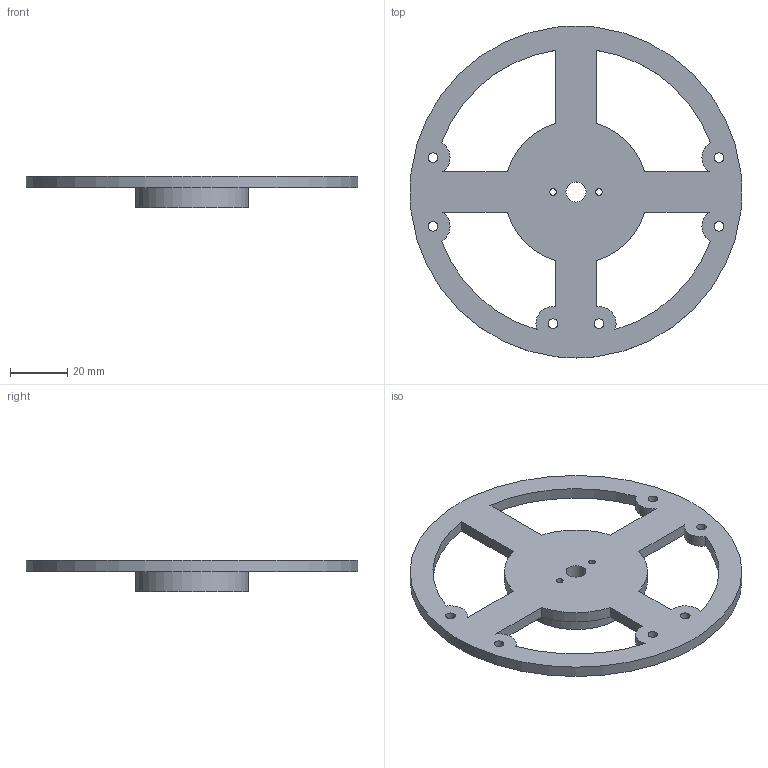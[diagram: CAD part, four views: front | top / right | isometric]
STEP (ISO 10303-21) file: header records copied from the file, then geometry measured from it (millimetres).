
FILE_DESCRIPTION(('FreeCAD Model'),'2;1');
FILE_NAME('Open CASCADE Shape Model','2026-11-07T00:59:44',('FreeCAD'),( 'FreeCAD'),'Open CASCADE STEP processor 7.8','FreeCAD','Unknown');
FILE_SCHEMA(('AUTOMOTIVE_DESIGN { 1 0 10303 214 1 1 1 1 }'));
Length unit declared in the file: millimetre
Products named in the file (1): Open CASCADE STEP translator 7.8 4
Bounding box: 116 x 116 x 11 mm (x, y, z)
Volume: 30296.3 mm3; surface area: 18442.8 mm2
Topology: 1 solids, 1 shells, 40 faces, 133 edges, 98 vertices
Faces by surface type: cylinder 27, plane 13
Full cylindrical faces by diameter (mm): 2.3 x2, 3.4 x6, 7 x1, 28 x1, 30 x1, 39.5 x1, 116 x1
Entity records: 1604 total; most frequent: DIRECTION 296, CARTESIAN_POINT 273, ORIENTED_EDGE 266, EDGE_CURVE 133, AXIS2_PLACEMENT_3D 123, VERTEX_POINT 98, CIRCLE 82, FACE_BOUND 69
